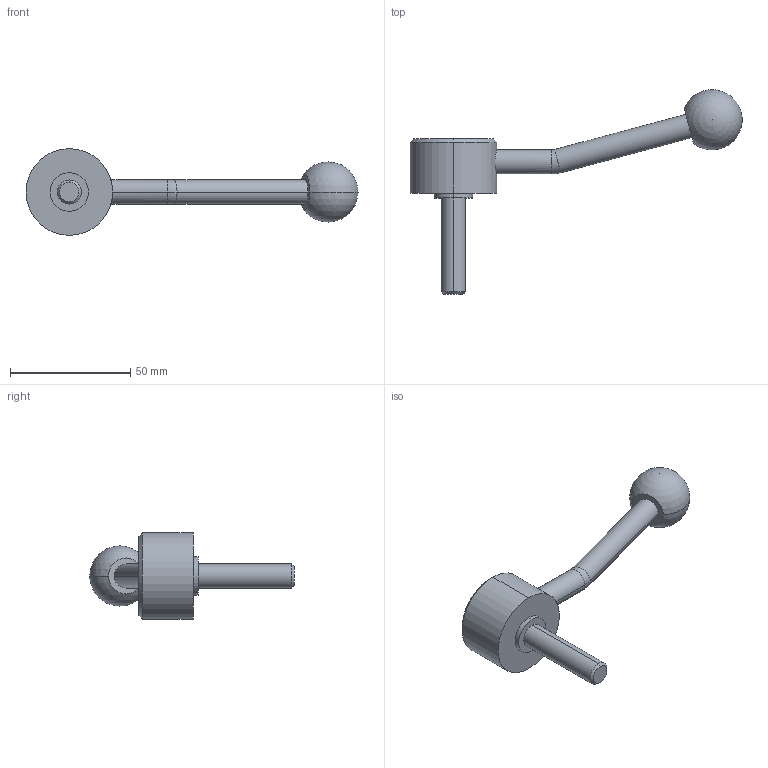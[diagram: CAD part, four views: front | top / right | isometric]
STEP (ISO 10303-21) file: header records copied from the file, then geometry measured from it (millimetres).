
FILE_DESCRIPTION (( 'STEP AP214' ), '1' );
FILE_NAME ('125.5-36-M10-40-E.step', '2020-02-18T11:31:39', ( '' ), ( '' ), 'SwSTEP 2.0', 'SolidWorks 2019', '' );
FILE_SCHEMA (( 'AUTOMOTIVE_DESIGN' ));
Length unit declared in the file: millimetre
Products named in the file (1): 125.5-36-M10-40-E
Bounding box: 137.95 x 85 x 36 mm (x, y, z)
Volume: 40793.5 mm3; surface area: 10194.3 mm2
Topology: 1 solids, 1 shells, 26 faces, 55 edges, 34 vertices
Faces by surface type: cylinder 12, plane 6, cone 4, torus 2, sphere 2
Entity records: 840 total; most frequent: CARTESIAN_POINT 182, DIRECTION 134, ORIENTED_EDGE 100, AXIS2_PLACEMENT_3D 59, EDGE_CURVE 50, CIRCLE 32, EDGE_LOOP 31, VERTEX_POINT 31
